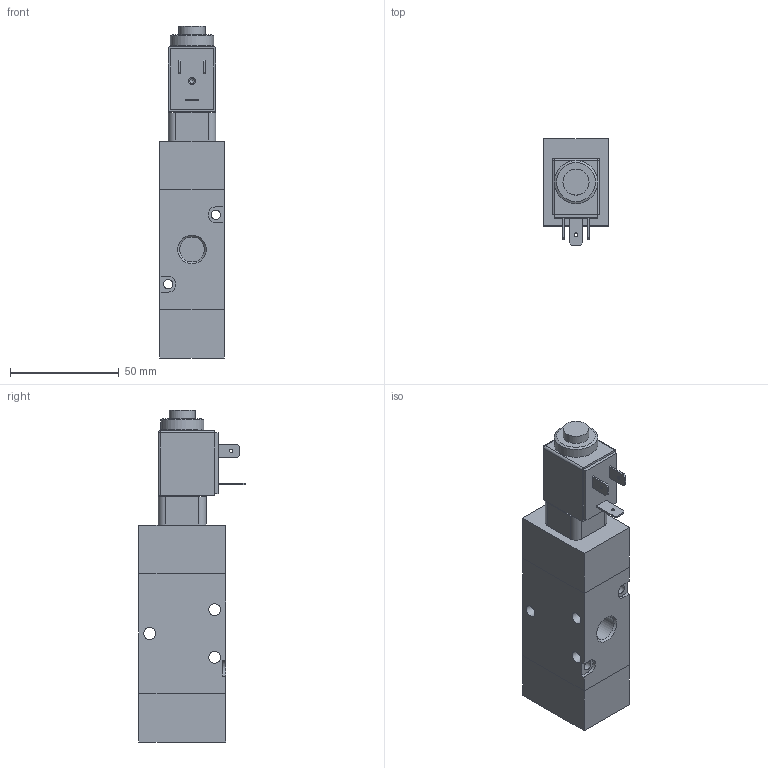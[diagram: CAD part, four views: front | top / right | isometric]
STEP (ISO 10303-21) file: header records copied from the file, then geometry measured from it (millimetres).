
FILE_DESCRIPTION(/* description */ (''),/* implementation_level */ '2;1');
FILE_NAME(/* name */ 'I:\Area Tecnica\Disegni\VARIE-3D\Componenti\T400\T424\T424_32_0_12_B#.stp',/* time_stamp */ '2015-09-23T13:48:56+02:00',/* author */ ('maniean1'),/* organization */ ('Pneumax S.p.A.'),/* preprocessor_version */ 'ST-DEVELOPER v15.2',/* originating_system */ 'Autodesk Inventor 2014',/* authorisation */ '');
FILE_SCHEMA (('AUTOMOTIVE_DESIGN { 1 0 10303 214 3 1 1 }'));
Length unit declared in the file: millimetre
Products named in the file (3): T424_32_0_12_M2; MB; T424_32_0_12_B#
Bounding box: 29.5 x 49 x 153 mm (x, y, z)
Volume: 138036.4 mm3; surface area: 33261.6 mm2
Topology: 7 solids, 7 shells, 121 faces, 265 edges, 172 vertices
Faces by surface type: plane 78, cylinder 35, cone 6, sphere 2
Full cylindrical faces by diameter (mm): 1.5 x2, 1.6 x1, 2.156 x1, 4.25 x2, 5.5 x3, 7.4 x1, 8 x1, 8.2 x2, 9.8 x1, 10.1 x1, 10.2 x1, 11.445 x3, 12 x1, 13 x1, 13.5 x1, 16.2 x1, 20 x1
Entity records: 3322 total; most frequent: DIRECTION 557, CARTESIAN_POINT 525, ORIENTED_EDGE 460, EDGE_CURVE 230, AXIS2_PLACEMENT_3D 201, EDGE_LOOP 185, VERTEX_POINT 169, LINE 155
